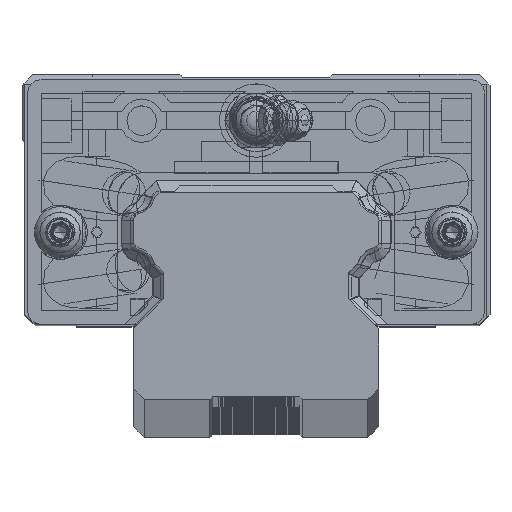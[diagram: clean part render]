
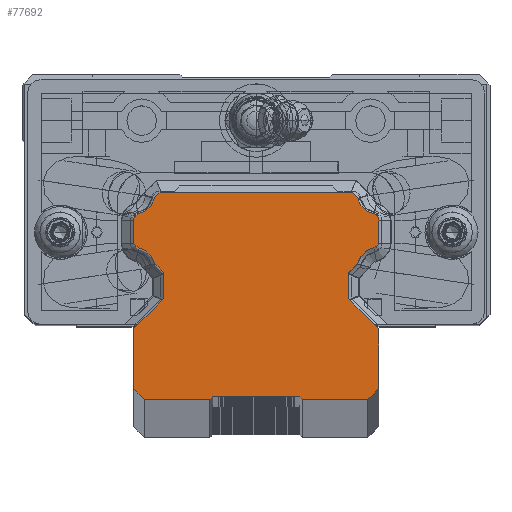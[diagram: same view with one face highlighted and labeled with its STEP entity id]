
A CAD part, top view. The second image highlights one B-rep face of the part: STEP entity #77692.
In plain terms, the highlighted planar face has unit normal (0, 0, 1).
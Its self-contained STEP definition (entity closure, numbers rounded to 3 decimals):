
#72448=DIRECTION('',(0.,-1.,0.));
#72449=VECTOR('',#72448,4.85);
#72450=CARTESIAN_POINT('',(-17.,-7.65,500.));
#72451=LINE('',#72450,#72449);
#72460=DIRECTION('',(0.,-1.,0.));
#72461=VECTOR('',#72460,11.);
#72462=CARTESIAN_POINT('',(-22.5,-18.,500.));
#72463=LINE('',#72462,#72461);
#72472=DIRECTION('',(1.,0.,0.));
#72473=VECTOR('',#72472,12.);
#72474=CARTESIAN_POINT('',(-20.5,-31.,500.));
#72475=LINE('',#72474,#72473);
#73848=DIRECTION('',(0.,-1.,0.));
#73849=VECTOR('',#73848,3.955);
#73850=CARTESIAN_POINT('',(-22.5,1.977,500.));
#73851=LINE('',#73850,#73849);
#73984=DIRECTION('',(-0.707,0.707,0.));
#73985=VECTOR('',#73984,2.29);
#73986=CARTESIAN_POINT('',(-17.,-7.65,500.));
#73987=LINE('',#73986,#73985);
#73988=CARTESIAN_POINT('',(-22.664,-7.164,500.));
#73989=DIRECTION('',(0.,0.,1.));
#73990=DIRECTION('',(0.963,0.27,0.));
#73991=AXIS2_PLACEMENT_3D('',#73988,#73989,#73990);
#73993=CARTESIAN_POINT('',(-21.35,-1.977,500.));
#73994=DIRECTION('',(0.,0.,-1.));
#73995=DIRECTION('',(-0.246,-0.969,0.));
#73996=AXIS2_PLACEMENT_3D('',#73993,#73994,#73995);
#73998=CARTESIAN_POINT('',(-21.35,1.977,500.));
#73999=DIRECTION('',(0.,0.,-1.));
#74000=DIRECTION('',(-1.,0.,0.));
#74001=AXIS2_PLACEMENT_3D('',#73998,#73999,#74000);
#74003=CARTESIAN_POINT('',(-22.664,7.164,500.));
#74004=DIRECTION('',(0.,0.,1.));
#74005=DIRECTION('',(0.246,-0.969,0.));
#74006=AXIS2_PLACEMENT_3D('',#74003,#74004,#74005);
#74008=DIRECTION('',(0.707,0.707,0.));
#74009=VECTOR('',#74008,1.371);
#74010=CARTESIAN_POINT('',(-18.619,6.031,500.));
#74011=LINE('',#74010,#74009);
#74012=DIRECTION('',(1.,0.,0.));
#74013=VECTOR('',#74012,35.3);
#74014=CARTESIAN_POINT('',(-17.65,7.,500.));
#74015=LINE('',#74014,#74013);
#74016=DIRECTION('',(0.707,-0.707,0.));
#74017=VECTOR('',#74016,1.371);
#74018=CARTESIAN_POINT('',(17.65,7.,500.));
#74019=LINE('',#74018,#74017);
#74020=CARTESIAN_POINT('',(22.664,7.164,500.));
#74021=DIRECTION('',(0.,0.,1.));
#74022=DIRECTION('',(-0.963,-0.27,0.));
#74023=AXIS2_PLACEMENT_3D('',#74020,#74021,#74022);
#74025=CARTESIAN_POINT('',(21.35,1.977,500.));
#74026=DIRECTION('',(0.,0.,-1.));
#74027=DIRECTION('',(0.246,0.969,0.));
#74028=AXIS2_PLACEMENT_3D('',#74025,#74026,#74027);
#74030=CARTESIAN_POINT('',(21.35,-1.977,500.));
#74031=DIRECTION('',(0.,0.,-1.));
#74032=DIRECTION('',(1.,0.,0.));
#74033=AXIS2_PLACEMENT_3D('',#74030,#74031,#74032);
#74035=CARTESIAN_POINT('',(22.664,-7.164,500.));
#74036=DIRECTION('',(0.,0.,1.));
#74037=DIRECTION('',(-0.246,0.969,0.));
#74038=AXIS2_PLACEMENT_3D('',#74035,#74036,#74037);
#74040=DIRECTION('',(-0.707,-0.707,0.));
#74041=VECTOR('',#74040,2.29);
#74042=CARTESIAN_POINT('',(18.619,-6.031,500.));
#74043=LINE('',#74042,#74041);
#74044=DIRECTION('',(0.707,-0.707,0.));
#74045=VECTOR('',#74044,7.778);
#74046=CARTESIAN_POINT('',(17.,-12.5,500.));
#74047=LINE('',#74046,#74045);
#74048=DIRECTION('',(-0.707,-0.707,0.));
#74049=VECTOR('',#74048,2.828);
#74050=CARTESIAN_POINT('',(22.5,-29.,500.));
#74051=LINE('',#74050,#74049);
#74052=DIRECTION('',(-0.707,0.707,0.));
#74053=VECTOR('',#74052,0.707);
#74054=CARTESIAN_POINT('',(8.5,-31.,500.));
#74055=LINE('',#74054,#74053);
#74056=DIRECTION('',(-1.,0.,0.));
#74057=VECTOR('',#74056,16.);
#74058=CARTESIAN_POINT('',(8.,-30.5,500.));
#74059=LINE('',#74058,#74057);
#74060=DIRECTION('',(-0.707,-0.707,0.));
#74061=VECTOR('',#74060,0.707);
#74062=CARTESIAN_POINT('',(-8.,-30.5,500.));
#74063=LINE('',#74062,#74061);
#74064=DIRECTION('',(-0.707,0.707,0.));
#74065=VECTOR('',#74064,2.828);
#74066=CARTESIAN_POINT('',(-20.5,-31.,500.));
#74067=LINE('',#74066,#74065);
#74068=DIRECTION('',(0.707,0.707,0.));
#74069=VECTOR('',#74068,7.778);
#74070=CARTESIAN_POINT('',(-22.5,-18.,500.));
#74071=LINE('',#74070,#74069);
#74088=DIRECTION('',(0.,1.,0.));
#74089=VECTOR('',#74088,3.955);
#74090=CARTESIAN_POINT('',(22.5,-1.977,500.));
#74091=LINE('',#74090,#74089);
#74108=DIRECTION('',(0.,1.,0.));
#74109=VECTOR('',#74108,4.85);
#74110=CARTESIAN_POINT('',(17.,-12.5,500.));
#74111=LINE('',#74110,#74109);
#74120=DIRECTION('',(0.,1.,0.));
#74121=VECTOR('',#74120,11.);
#74122=CARTESIAN_POINT('',(22.5,-29.,500.));
#74123=LINE('',#74122,#74121);
#74132=DIRECTION('',(1.,0.,0.));
#74133=VECTOR('',#74132,12.);
#74134=CARTESIAN_POINT('',(8.5,-31.,500.));
#74135=LINE('',#74134,#74133);
#75144=CARTESIAN_POINT('',(-17.,-7.65,500.));
#75145=CARTESIAN_POINT('',(-18.619,-6.031,500.));
#75146=VERTEX_POINT('',#75144);
#75147=VERTEX_POINT('',#75145);
#75148=CARTESIAN_POINT('',(-21.632,-3.092,500.));
#75149=VERTEX_POINT('',#75148);
#75150=CARTESIAN_POINT('',(-22.5,-1.977,500.));
#75151=VERTEX_POINT('',#75150);
#75152=CARTESIAN_POINT('',(-22.5,1.977,500.));
#75153=VERTEX_POINT('',#75152);
#75154=CARTESIAN_POINT('',(-21.632,3.092,500.));
#75155=VERTEX_POINT('',#75154);
#75156=CARTESIAN_POINT('',(-18.619,6.031,500.));
#75157=VERTEX_POINT('',#75156);
#75158=CARTESIAN_POINT('',(-17.65,7.,500.));
#75159=VERTEX_POINT('',#75158);
#75160=CARTESIAN_POINT('',(17.65,7.,500.));
#75161=VERTEX_POINT('',#75160);
#75202=CARTESIAN_POINT('',(18.619,6.031,500.));
#75203=VERTEX_POINT('',#75202);
#75204=CARTESIAN_POINT('',(21.632,3.092,500.));
#75205=VERTEX_POINT('',#75204);
#75206=CARTESIAN_POINT('',(22.5,1.977,500.));
#75207=VERTEX_POINT('',#75206);
#75208=CARTESIAN_POINT('',(22.5,-1.977,500.));
#75209=VERTEX_POINT('',#75208);
#75210=CARTESIAN_POINT('',(21.632,-3.092,500.));
#75211=VERTEX_POINT('',#75210);
#75212=CARTESIAN_POINT('',(18.619,-6.031,500.));
#75213=VERTEX_POINT('',#75212);
#75214=CARTESIAN_POINT('',(17.,-7.65,500.));
#75215=VERTEX_POINT('',#75214);
#75216=CARTESIAN_POINT('',(17.,-12.5,500.));
#75217=VERTEX_POINT('',#75216);
#75218=CARTESIAN_POINT('',(22.5,-18.,500.));
#75219=VERTEX_POINT('',#75218);
#75220=CARTESIAN_POINT('',(22.5,-29.,500.));
#75221=VERTEX_POINT('',#75220);
#75222=CARTESIAN_POINT('',(20.5,-31.,500.));
#75223=VERTEX_POINT('',#75222);
#75224=CARTESIAN_POINT('',(8.5,-31.,500.));
#75225=VERTEX_POINT('',#75224);
#75226=CARTESIAN_POINT('',(8.,-30.5,500.));
#75227=VERTEX_POINT('',#75226);
#75228=CARTESIAN_POINT('',(-8.,-30.5,500.));
#75229=VERTEX_POINT('',#75228);
#75270=CARTESIAN_POINT('',(-8.5,-31.,500.));
#75271=VERTEX_POINT('',#75270);
#75272=CARTESIAN_POINT('',(-20.5,-31.,500.));
#75273=VERTEX_POINT('',#75272);
#75274=CARTESIAN_POINT('',(-22.5,-29.,500.));
#75275=VERTEX_POINT('',#75274);
#75276=CARTESIAN_POINT('',(-22.5,-18.,500.));
#75277=VERTEX_POINT('',#75276);
#75278=CARTESIAN_POINT('',(-17.,-12.5,500.));
#75279=VERTEX_POINT('',#75278);
#77645=CARTESIAN_POINT('',(0.,0.,500.));
#77646=DIRECTION('',(0.,0.,1.));
#77647=DIRECTION('',(1.,0.,0.));
#77648=AXIS2_PLACEMENT_3D('',#77645,#77646,#77647);
#77649=PLANE('',#77648);
#77650=ORIENTED_EDGE('',*,*,#75875,.T.);
#77651=ORIENTED_EDGE('',*,*,#77549,.T.);
#77652=ORIENTED_EDGE('',*,*,#77535,.T.);
#77653=ORIENTED_EDGE('',*,*,#77520,.F.);
#77654=ORIENTED_EDGE('',*,*,#77505,.T.);
#77655=ORIENTED_EDGE('',*,*,#77490,.T.);
#77656=ORIENTED_EDGE('',*,*,#77475,.T.);
#77657=ORIENTED_EDGE('',*,*,#76591,.T.);
#77659=ORIENTED_EDGE('',*,*,#77658,.T.);
#77661=ORIENTED_EDGE('',*,*,#77660,.T.);
#77663=ORIENTED_EDGE('',*,*,#77662,.T.);
#77665=ORIENTED_EDGE('',*,*,#77664,.F.);
#77667=ORIENTED_EDGE('',*,*,#77666,.T.);
#77669=ORIENTED_EDGE('',*,*,#77668,.T.);
#77671=ORIENTED_EDGE('',*,*,#77670,.T.);
#77673=ORIENTED_EDGE('',*,*,#77672,.F.);
#77675=ORIENTED_EDGE('',*,*,#77674,.T.);
#77677=ORIENTED_EDGE('',*,*,#77676,.F.);
#77679=ORIENTED_EDGE('',*,*,#77678,.T.);
#77681=ORIENTED_EDGE('',*,*,#77680,.F.);
#77682=ORIENTED_EDGE('',*,*,#77636,.T.);
#77683=ORIENTED_EDGE('',*,*,#76034,.T.);
#77684=ORIENTED_EDGE('',*,*,#75967,.T.);
#77685=ORIENTED_EDGE('',*,*,#75950,.F.);
#77686=ORIENTED_EDGE('',*,*,#75935,.T.);
#77687=ORIENTED_EDGE('',*,*,#75920,.F.);
#77688=ORIENTED_EDGE('',*,*,#75905,.T.);
#77689=ORIENTED_EDGE('',*,*,#75890,.F.);
#77690=EDGE_LOOP('',(#77650,#77651,#77652,#77653,#77654,#77655,#77656,#77657,
#77659,#77661,#77663,#77665,#77667,#77669,#77671,#77673,#77675,#77677,#77679,
#77681,#77682,#77683,#77684,#77685,#77686,#77687,#77688,#77689));
#77691=FACE_OUTER_BOUND('',#77690,.F.);
#77692=ADVANCED_FACE('',(#77691),#77649,.T.);
#73992=CIRCLE('',#73991,4.2);
#73997=CIRCLE('',#73996,1.15);
#74002=CIRCLE('',#74001,1.15);
#74007=CIRCLE('',#74006,4.2);
#74024=CIRCLE('',#74023,4.2);
#74029=CIRCLE('',#74028,1.15);
#74034=CIRCLE('',#74033,1.15);
#74039=CIRCLE('',#74038,4.2);
#75875=EDGE_CURVE('',#75146,#75147,#73987,.T.);
#75890=EDGE_CURVE('',#75146,#75279,#72451,.T.);
#75905=EDGE_CURVE('',#75277,#75279,#74071,.T.);
#75920=EDGE_CURVE('',#75277,#75275,#72463,.T.);
#75935=EDGE_CURVE('',#75273,#75275,#74067,.T.);
#75950=EDGE_CURVE('',#75273,#75271,#72475,.T.);
#75967=EDGE_CURVE('',#75229,#75271,#74063,.T.);
#76034=EDGE_CURVE('',#75227,#75229,#74059,.T.);
#76591=EDGE_CURVE('',#75159,#75161,#74015,.T.);
#77475=EDGE_CURVE('',#75157,#75159,#74011,.T.);
#77490=EDGE_CURVE('',#75155,#75157,#74007,.T.);
#77505=EDGE_CURVE('',#75153,#75155,#74002,.T.);
#77520=EDGE_CURVE('',#75153,#75151,#73851,.T.);
#77535=EDGE_CURVE('',#75149,#75151,#73997,.T.);
#77549=EDGE_CURVE('',#75147,#75149,#73992,.T.);
#77636=EDGE_CURVE('',#75225,#75227,#74055,.T.);
#77658=EDGE_CURVE('',#75161,#75203,#74019,.T.);
#77660=EDGE_CURVE('',#75203,#75205,#74024,.T.);
#77662=EDGE_CURVE('',#75205,#75207,#74029,.T.);
#77664=EDGE_CURVE('',#75209,#75207,#74091,.T.);
#77666=EDGE_CURVE('',#75209,#75211,#74034,.T.);
#77668=EDGE_CURVE('',#75211,#75213,#74039,.T.);
#77670=EDGE_CURVE('',#75213,#75215,#74043,.T.);
#77672=EDGE_CURVE('',#75217,#75215,#74111,.T.);
#77674=EDGE_CURVE('',#75217,#75219,#74047,.T.);
#77676=EDGE_CURVE('',#75221,#75219,#74123,.T.);
#77678=EDGE_CURVE('',#75221,#75223,#74051,.T.);
#77680=EDGE_CURVE('',#75225,#75223,#74135,.T.);
